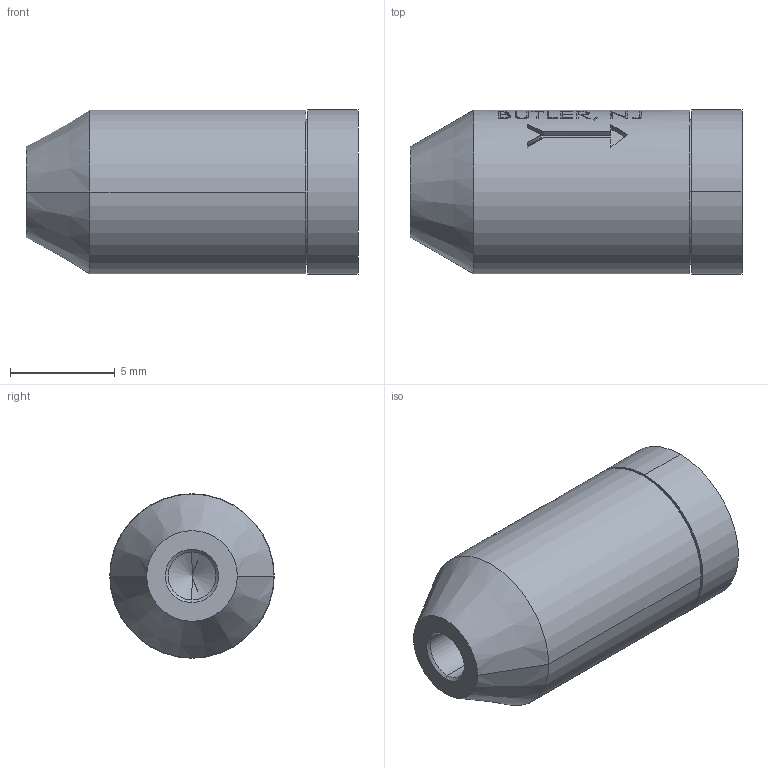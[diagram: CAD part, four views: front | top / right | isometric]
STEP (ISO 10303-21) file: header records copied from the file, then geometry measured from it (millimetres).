
FILE_DESCRIPTION (( 'STEP AP203' ), '1' );
FILE_NAME ('CCV-312.STEP', '2020-06-29T13:13:14', ( '' ), ( '' ), 'SwSTEP 2.0', 'SolidWorks 2011', '' );
FILE_SCHEMA (( 'CONFIG_CONTROL_DESIGN' ));
Length unit declared in the file: inch
Products named in the file (2): CCV-312; Part1^CCV-312_CM
Assembly tree (1 placements, depth 2):
  CCV-312
    Part1^CCV-312_CM
Bounding box: 15.82 x 7.84 x 7.84 mm (x, y, z)
Volume: 681.3 mm3; surface area: 519 mm2
Topology: 1 solids, 1 shells, 251 faces, 664 edges, 430 vertices
Faces by surface type: plane 134, bspline 70, cylinder 37, cone 10
Entity records: 10744 total; most frequent: CARTESIAN_POINT 4897, ORIENTED_EDGE 1320, DIRECTION 938, EDGE_CURVE 660, VERTEX_POINT 430, AXIS2_PLACEMENT_3D 333, LINE 272, VECTOR 272
